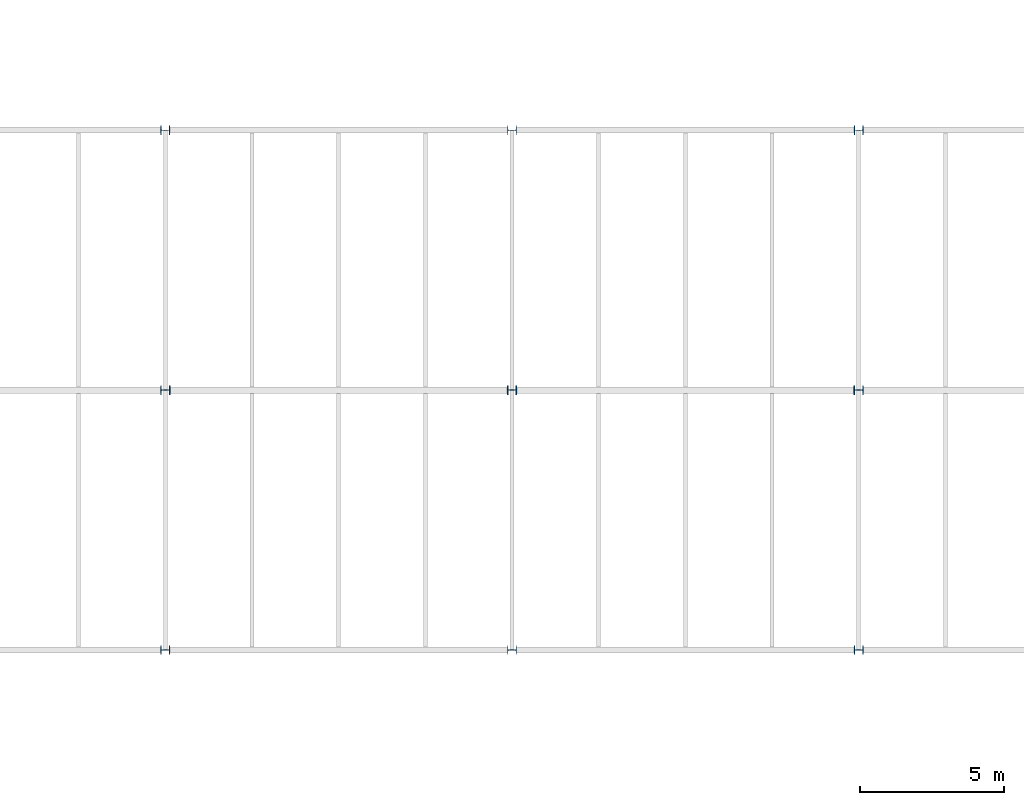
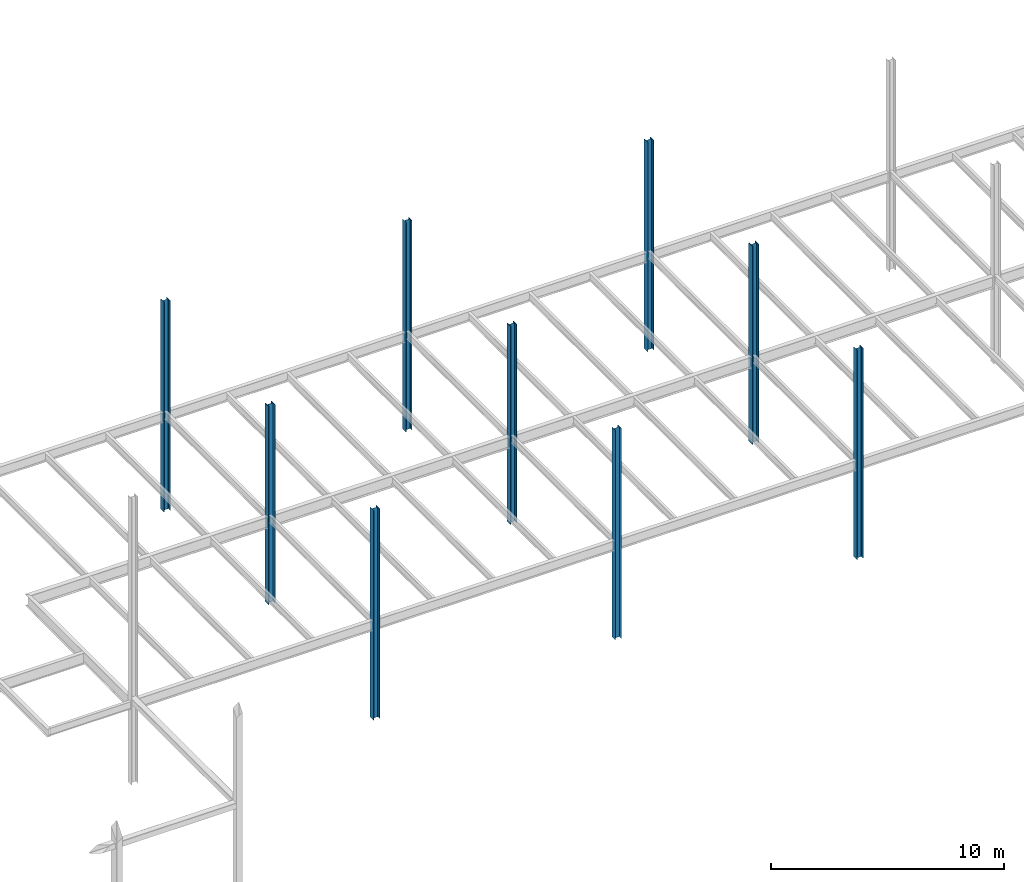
# One storey, part 7 of 19: 9 columns.
"""IFC2X3 building model written with IfcOpenShell, lengths in millimetres."""

from ifc_helpers import new_model, si_unit, origin, place, context, project, spatial, faceted_brep, material, element, save


model = new_model("IFC2X3")

# Units and contexts
context_of_model = context(None, 3, precision=1e-05, world=origin())
ifc_project = project(units=[si_unit("LENGTHUNIT", "METRE", prefix="MILLI")], contexts=[context_of_model])

# Building, storey
building = spatial("IfcBuilding", under=ifc_project, Name="Building", CompositionType="ELEMENT")
storey = spatial("IfcBuildingStorey", under=building, Name="FL2-FRM", CompositionType="ELEMENT")

# Columns
ifc_material_1 = material(Name="A992")
column_1_placement = place(None, origin())
element("IfcColumn", 1, at=column_1_placement, inside=storey, material=ifc_material_1, Name="Column638", context=context_of_model, shape_type="Brep", body=[
    faceted_brep([(24154.0, 26847.5, -812.8), (24154.0, 27152.5, -812.8), (24154.0, 27152.5, 10194.2), (24154.0, 26847.5, 10194.2), (24138.6, 27152.5, -812.8), (24138.6, 27152.5, 10194.2), (24138.6, 27020.1, -812.8), (24138.6, 27020.1, 10194.2), (24138.1, 27016.2, -812.8), (24138.1, 27016.2, 10194.2), (24136.6, 27012.5, -812.8), (24136.6, 27012.5, 10194.2), (24134.1, 27009.4, -812.8), (24134.1, 27009.4, 10194.2), (24131.0, 27007.0, -812.8), (24131.0, 27007.0, 10194.2), (24127.3, 27005.5, -812.8), (24127.3, 27005.5, 10194.2), (24123.4, 27004.9, -812.8), (24123.4, 27004.9, 10194.2), (23876.6, 27004.9, -812.8), (23876.6, 27004.9, 10194.2), (23872.7, 27005.5, -812.8), (23872.7, 27005.5, 10194.2), (23869.0, 27007.0, -812.8), (23869.0, 27007.0, 10194.2), (23865.9, 27009.4, -812.8), (23865.9, 27009.4, 10194.2), (23863.4, 27012.5, -812.8), (23863.4, 27012.5, 10194.2), (23861.9, 27016.2, -812.8), (23861.9, 27016.2, 10194.2), (23861.4, 27020.1, -812.8), (23861.4, 27020.1, 10194.2), (23861.4, 27152.5, -812.8), (23861.4, 27152.5, 10194.2), (23846.0, 27152.5, -812.8), (23846.0, 27152.5, 10194.2), (23846.0, 26847.5, -812.8), (23846.0, 26847.5, 10194.2), (23861.4, 26847.5, -812.8), (23861.4, 26847.5, 10194.2), (23861.4, 26979.9, -812.8), (23861.4, 26979.9, 10194.2), (23861.9, 26983.8, -812.8), (23861.9, 26983.8, 10194.2), (23863.4, 26987.5, -812.8), (23863.4, 26987.5, 10194.2), (23865.9, 26990.6, -812.8), (23865.9, 26990.6, 10194.2), (23869.0, 26993.0, -812.8), (23869.0, 26993.0, 10194.2), (23872.7, 26994.5, -812.8), (23872.7, 26994.5, 10194.2), (23876.6, 26995.1, -812.8), (23876.6, 26995.1, 10194.2), (24123.4, 26995.1, -812.8), (24123.4, 26995.1, 10194.2), (24127.3, 26994.5, -812.8), (24127.3, 26994.5, 10194.2), (24131.0, 26993.0, -812.8), (24131.0, 26993.0, 10194.2), (24134.1, 26990.6, -812.8), (24134.1, 26990.6, 10194.2), (24136.6, 26987.5, -812.8), (24136.6, 26987.5, 10194.2), (24138.1, 26983.8, -812.8), (24138.1, 26983.8, 10194.2), (24138.6, 26979.9, -812.8), (24138.6, 26979.9, 10194.2), (24138.6, 26847.5, -812.8), (24138.6, 26847.5, 10194.2)], [[[0, 1, 2, 3]], [[1, 4, 5, 2]], [[4, 6, 7, 5]], [[6, 8, 9, 7]], [[8, 10, 11, 9]], [[10, 12, 13, 11]], [[12, 14, 15, 13]], [[14, 16, 17, 15]], [[16, 18, 19, 17]], [[18, 20, 21, 19]], [[20, 22, 23, 21]], [[22, 24, 25, 23]], [[24, 26, 27, 25]], [[26, 28, 29, 27]], [[28, 30, 31, 29]], [[30, 32, 33, 31]], [[32, 34, 35, 33]], [[34, 36, 37, 35]], [[36, 38, 39, 37]], [[38, 40, 41, 39]], [[40, 42, 43, 41]], [[42, 44, 45, 43]], [[44, 46, 47, 45]], [[46, 48, 49, 47]], [[48, 50, 51, 49]], [[50, 52, 53, 51]], [[52, 54, 55, 53]], [[54, 56, 57, 55]], [[56, 58, 59, 57]], [[58, 60, 61, 59]], [[60, 62, 63, 61]], [[62, 64, 65, 63]], [[64, 66, 67, 65]], [[66, 68, 69, 67]], [[68, 70, 71, 69]], [[70, 0, 3, 71]], [[0, 70, 68, 66, 64, 62, 60, 58, 56, 54, 52, 50, 48, 46, 44, 42, 40, 38, 36, 34, 32, 30, 28, 26, 24, 22, 20, 18, 16, 14, 12, 10, 8, 6, 4, 1]], [[3, 2, 5, 7, 9, 11, 13, 15, 17, 19, 21, 23, 25, 27, 29, 31, 33, 35, 37, 39, 41, 43, 45, 47, 49, 51, 53, 55, 57, 59, 61, 63, 65, 67, 69, 71]]]),
])
ifc_material_2 = material(Name="A992")
column_2_placement = place(None, origin())
element("IfcColumn", 2, at=column_2_placement, inside=storey, material=ifc_material_2, Name="Column639", context=context_of_model, shape_type="Brep", body=[
    faceted_brep([(36166.5, 17843.5, -203.2), (36166.5, 18156.5, -203.2), (36166.5, 18156.5, 10194.2), (36166.5, 17843.5, 10194.2), (36138.4, 18156.5, -203.2), (36138.4, 18156.5, 10194.2), (36138.4, 18024.2, -203.2), (36138.4, 18024.2, 10194.2), (36137.9, 18020.3, -203.2), (36137.9, 18020.3, 10194.2), (36136.4, 18016.6, -203.2), (36136.4, 18016.6, 10194.2), (36133.9, 18013.5, -203.2), (36133.9, 18013.5, 10194.2), (36130.8, 18011.0, -203.2), (36130.8, 18011.0, 10194.2), (36127.1, 18009.5, -203.2), (36127.1, 18009.5, 10194.2), (36123.2, 18009.0, -203.2), (36123.2, 18009.0, 10194.2), (35876.8, 18009.0, -203.2), (35876.8, 18009.0, 10194.2), (35872.9, 18009.5, -203.2), (35872.9, 18009.5, 10194.2), (35869.2, 18011.0, -203.2), (35869.2, 18011.0, 10194.2), (35866.1, 18013.5, -203.2), (35866.1, 18013.5, 10194.2), (35863.6, 18016.6, -203.2), (35863.6, 18016.6, 10194.2), (35862.1, 18020.3, -203.2), (35862.1, 18020.3, 10194.2), (35861.6, 18024.2, -203.2), (35861.6, 18024.2, 10194.2), (35861.6, 18156.5, -203.2), (35861.6, 18156.5, 10194.2), (35833.5, 18156.5, -203.2), (35833.5, 18156.5, 10194.2), (35833.5, 17843.5, -203.2), (35833.5, 17843.5, 10194.2), (35861.6, 17843.5, -203.2), (35861.6, 17843.5, 10194.2), (35861.6, 17975.8, -203.2), (35861.6, 17975.8, 10194.2), (35862.1, 17979.7, -203.2), (35862.1, 17979.7, 10194.2), (35863.6, 17983.4, -203.2), (35863.6, 17983.4, 10194.2), (35866.1, 17986.5, -203.2), (35866.1, 17986.5, 10194.2), (35869.2, 17989.0, -203.2), (35869.2, 17989.0, 10194.2), (35872.9, 17990.5, -203.2), (35872.9, 17990.5, 10194.2), (35876.8, 17991.0, -203.2), (35876.8, 17991.0, 10194.2), (36123.2, 17991.0, -203.2), (36123.2, 17991.0, 10194.2), (36127.1, 17990.5, -203.2), (36127.1, 17990.5, 10194.2), (36130.8, 17989.0, -203.2), (36130.8, 17989.0, 10194.2), (36133.9, 17986.5, -203.2), (36133.9, 17986.5, 10194.2), (36136.4, 17983.4, -203.2), (36136.4, 17983.4, 10194.2), (36137.9, 17979.7, -203.2), (36137.9, 17979.7, 10194.2), (36138.4, 17975.8, -203.2), (36138.4, 17975.8, 10194.2), (36138.4, 17843.5, -203.2), (36138.4, 17843.5, 10194.2)], [[[0, 1, 2, 3]], [[1, 4, 5, 2]], [[4, 6, 7, 5]], [[6, 8, 9, 7]], [[8, 10, 11, 9]], [[10, 12, 13, 11]], [[12, 14, 15, 13]], [[14, 16, 17, 15]], [[16, 18, 19, 17]], [[18, 20, 21, 19]], [[20, 22, 23, 21]], [[22, 24, 25, 23]], [[24, 26, 27, 25]], [[26, 28, 29, 27]], [[28, 30, 31, 29]], [[30, 32, 33, 31]], [[32, 34, 35, 33]], [[34, 36, 37, 35]], [[36, 38, 39, 37]], [[38, 40, 41, 39]], [[40, 42, 43, 41]], [[42, 44, 45, 43]], [[44, 46, 47, 45]], [[46, 48, 49, 47]], [[48, 50, 51, 49]], [[50, 52, 53, 51]], [[52, 54, 55, 53]], [[54, 56, 57, 55]], [[56, 58, 59, 57]], [[58, 60, 61, 59]], [[60, 62, 63, 61]], [[62, 64, 65, 63]], [[64, 66, 67, 65]], [[66, 68, 69, 67]], [[68, 70, 71, 69]], [[70, 0, 3, 71]], [[0, 70, 68, 66, 64, 62, 60, 58, 56, 54, 52, 50, 48, 46, 44, 42, 40, 38, 36, 34, 32, 30, 28, 26, 24, 22, 20, 18, 16, 14, 12, 10, 8, 6, 4, 1]], [[3, 2, 5, 7, 9, 11, 13, 15, 17, 19, 21, 23, 25, 27, 29, 31, 33, 35, 37, 39, 41, 43, 45, 47, 49, 51, 53, 55, 57, 59, 61, 63, 65, 67, 69, 71]]]),
])
ifc_material_3 = material(Name="A992")
column_3_placement = place(None, origin())
element("IfcColumn", 3, at=column_3_placement, inside=storey, material=ifc_material_3, Name="Column640", context=context_of_model, shape_type="Brep", body=[
    faceted_brep([(24166.5, 17843.5, -203.2), (24166.5, 18156.5, -203.2), (24166.5, 18156.5, 10194.2), (24166.5, 17843.5, 10194.2), (24138.4, 18156.5, -203.2), (24138.4, 18156.5, 10194.2), (24138.4, 18024.2, -203.2), (24138.4, 18024.2, 10194.2), (24137.9, 18020.3, -203.2), (24137.9, 18020.3, 10194.2), (24136.4, 18016.6, -203.2), (24136.4, 18016.6, 10194.2), (24133.9, 18013.5, -203.2), (24133.9, 18013.5, 10194.2), (24130.8, 18011.0, -203.2), (24130.8, 18011.0, 10194.2), (24127.1, 18009.5, -203.2), (24127.1, 18009.5, 10194.2), (24123.2, 18009.0, -203.2), (24123.2, 18009.0, 10194.2), (23876.8, 18009.0, -203.2), (23876.8, 18009.0, 10194.2), (23872.9, 18009.5, -203.2), (23872.9, 18009.5, 10194.2), (23869.2, 18011.0, -203.2), (23869.2, 18011.0, 10194.2), (23866.1, 18013.5, -203.2), (23866.1, 18013.5, 10194.2), (23863.6, 18016.6, -203.2), (23863.6, 18016.6, 10194.2), (23862.1, 18020.3, -203.2), (23862.1, 18020.3, 10194.2), (23861.6, 18024.2, -203.2), (23861.6, 18024.2, 10194.2), (23861.6, 18156.5, -203.2), (23861.6, 18156.5, 10194.2), (23833.5, 18156.5, -203.2), (23833.5, 18156.5, 10194.2), (23833.5, 17843.5, -203.2), (23833.5, 17843.5, 10194.2), (23861.6, 17843.5, -203.2), (23861.6, 17843.5, 10194.2), (23861.6, 17975.8, -203.2), (23861.6, 17975.8, 10194.2), (23862.1, 17979.7, -203.2), (23862.1, 17979.7, 10194.2), (23863.6, 17983.4, -203.2), (23863.6, 17983.4, 10194.2), (23866.1, 17986.5, -203.2), (23866.1, 17986.5, 10194.2), (23869.2, 17989.0, -203.2), (23869.2, 17989.0, 10194.2), (23872.9, 17990.5, -203.2), (23872.9, 17990.5, 10194.2), (23876.8, 17991.0, -203.2), (23876.8, 17991.0, 10194.2), (24123.2, 17991.0, -203.2), (24123.2, 17991.0, 10194.2), (24127.1, 17990.5, -203.2), (24127.1, 17990.5, 10194.2), (24130.8, 17989.0, -203.2), (24130.8, 17989.0, 10194.2), (24133.9, 17986.5, -203.2), (24133.9, 17986.5, 10194.2), (24136.4, 17983.4, -203.2), (24136.4, 17983.4, 10194.2), (24137.9, 17979.7, -203.2), (24137.9, 17979.7, 10194.2), (24138.4, 17975.8, -203.2), (24138.4, 17975.8, 10194.2), (24138.4, 17843.5, -203.2), (24138.4, 17843.5, 10194.2)], [[[0, 1, 2, 3]], [[1, 4, 5, 2]], [[4, 6, 7, 5]], [[6, 8, 9, 7]], [[8, 10, 11, 9]], [[10, 12, 13, 11]], [[12, 14, 15, 13]], [[14, 16, 17, 15]], [[16, 18, 19, 17]], [[18, 20, 21, 19]], [[20, 22, 23, 21]], [[22, 24, 25, 23]], [[24, 26, 27, 25]], [[26, 28, 29, 27]], [[28, 30, 31, 29]], [[30, 32, 33, 31]], [[32, 34, 35, 33]], [[34, 36, 37, 35]], [[36, 38, 39, 37]], [[38, 40, 41, 39]], [[40, 42, 43, 41]], [[42, 44, 45, 43]], [[44, 46, 47, 45]], [[46, 48, 49, 47]], [[48, 50, 51, 49]], [[50, 52, 53, 51]], [[52, 54, 55, 53]], [[54, 56, 57, 55]], [[56, 58, 59, 57]], [[58, 60, 61, 59]], [[60, 62, 63, 61]], [[62, 64, 65, 63]], [[64, 66, 67, 65]], [[66, 68, 69, 67]], [[68, 70, 71, 69]], [[70, 0, 3, 71]], [[0, 70, 68, 66, 64, 62, 60, 58, 56, 54, 52, 50, 48, 46, 44, 42, 40, 38, 36, 34, 32, 30, 28, 26, 24, 22, 20, 18, 16, 14, 12, 10, 8, 6, 4, 1]], [[3, 2, 5, 7, 9, 11, 13, 15, 17, 19, 21, 23, 25, 27, 29, 31, 33, 35, 37, 39, 41, 43, 45, 47, 49, 51, 53, 55, 57, 59, 61, 63, 65, 67, 69, 71]]]),
])
ifc_material_4 = material(Name="A992")
column_4_placement = place(None, origin())
element("IfcColumn", 4, at=column_4_placement, inside=storey, material=ifc_material_4, Name="Column641", context=context_of_model, shape_type="Brep", body=[
    faceted_brep([(48166.5, 17843.5, -203.2), (48166.5, 18156.5, -203.2), (48166.5, 18156.5, 10194.2), (48166.5, 17843.5, 10194.2), (48138.4, 18156.5, -203.2), (48138.4, 18156.5, 10194.2), (48138.4, 18024.2, -203.2), (48138.4, 18024.2, 10194.2), (48137.9, 18020.3, -203.2), (48137.9, 18020.3, 10194.2), (48136.4, 18016.6, -203.2), (48136.4, 18016.6, 10194.2), (48133.9, 18013.5, -203.2), (48133.9, 18013.5, 10194.2), (48130.8, 18011.0, -203.2), (48130.8, 18011.0, 10194.2), (48127.1, 18009.5, -203.2), (48127.1, 18009.5, 10194.2), (48123.2, 18009.0, -203.2), (48123.2, 18009.0, 10194.2), (47876.8, 18009.0, -203.2), (47876.8, 18009.0, 10194.2), (47872.9, 18009.5, -203.2), (47872.9, 18009.5, 10194.2), (47869.2, 18011.0, -203.2), (47869.2, 18011.0, 10194.2), (47866.1, 18013.5, -203.2), (47866.1, 18013.5, 10194.2), (47863.6, 18016.6, -203.2), (47863.6, 18016.6, 10194.2), (47862.1, 18020.3, -203.2), (47862.1, 18020.3, 10194.2), (47861.6, 18024.2, -203.2), (47861.6, 18024.2, 10194.2), (47861.6, 18156.5, -203.2), (47861.6, 18156.5, 10194.2), (47833.5, 18156.5, -203.2), (47833.5, 18156.5, 10194.2), (47833.5, 17843.5, -203.2), (47833.5, 17843.5, 10194.2), (47861.6, 17843.5, -203.2), (47861.6, 17843.5, 10194.2), (47861.6, 17975.8, -203.2), (47861.6, 17975.8, 10194.2), (47862.1, 17979.7, -203.2), (47862.1, 17979.7, 10194.2), (47863.6, 17983.4, -203.2), (47863.6, 17983.4, 10194.2), (47866.1, 17986.5, -203.2), (47866.1, 17986.5, 10194.2), (47869.2, 17989.0, -203.2), (47869.2, 17989.0, 10194.2), (47872.9, 17990.5, -203.2), (47872.9, 17990.5, 10194.2), (47876.8, 17991.0, -203.2), (47876.8, 17991.0, 10194.2), (48123.2, 17991.0, -203.2), (48123.2, 17991.0, 10194.2), (48127.1, 17990.5, -203.2), (48127.1, 17990.5, 10194.2), (48130.8, 17989.0, -203.2), (48130.8, 17989.0, 10194.2), (48133.9, 17986.5, -203.2), (48133.9, 17986.5, 10194.2), (48136.4, 17983.4, -203.2), (48136.4, 17983.4, 10194.2), (48137.9, 17979.7, -203.2), (48137.9, 17979.7, 10194.2), (48138.4, 17975.8, -203.2), (48138.4, 17975.8, 10194.2), (48138.4, 17843.5, -203.2), (48138.4, 17843.5, 10194.2)], [[[0, 1, 2, 3]], [[1, 4, 5, 2]], [[4, 6, 7, 5]], [[6, 8, 9, 7]], [[8, 10, 11, 9]], [[10, 12, 13, 11]], [[12, 14, 15, 13]], [[14, 16, 17, 15]], [[16, 18, 19, 17]], [[18, 20, 21, 19]], [[20, 22, 23, 21]], [[22, 24, 25, 23]], [[24, 26, 27, 25]], [[26, 28, 29, 27]], [[28, 30, 31, 29]], [[30, 32, 33, 31]], [[32, 34, 35, 33]], [[34, 36, 37, 35]], [[36, 38, 39, 37]], [[38, 40, 41, 39]], [[40, 42, 43, 41]], [[42, 44, 45, 43]], [[44, 46, 47, 45]], [[46, 48, 49, 47]], [[48, 50, 51, 49]], [[50, 52, 53, 51]], [[52, 54, 55, 53]], [[54, 56, 57, 55]], [[56, 58, 59, 57]], [[58, 60, 61, 59]], [[60, 62, 63, 61]], [[62, 64, 65, 63]], [[64, 66, 67, 65]], [[66, 68, 69, 67]], [[68, 70, 71, 69]], [[70, 0, 3, 71]], [[0, 70, 68, 66, 64, 62, 60, 58, 56, 54, 52, 50, 48, 46, 44, 42, 40, 38, 36, 34, 32, 30, 28, 26, 24, 22, 20, 18, 16, 14, 12, 10, 8, 6, 4, 1]], [[3, 2, 5, 7, 9, 11, 13, 15, 17, 19, 21, 23, 25, 27, 29, 31, 33, 35, 37, 39, 41, 43, 45, 47, 49, 51, 53, 55, 57, 59, 61, 63, 65, 67, 69, 71]]]),
])
ifc_material_5 = material(Name="A992")
column_5_placement = place(None, origin())
element("IfcColumn", 5, at=column_5_placement, inside=storey, material=ifc_material_5, Name="Column645", context=context_of_model, shape_type="Brep", body=[
    faceted_brep([(48154.0, 26847.5, -812.8), (48154.0, 27152.5, -812.8), (48154.0, 27152.5, 10194.2), (48154.0, 26847.5, 10194.2), (48138.6, 27152.5, -812.8), (48138.6, 27152.5, 10194.2), (48138.6, 27020.1, -812.8), (48138.6, 27020.1, 10194.2), (48138.1, 27016.2, -812.8), (48138.1, 27016.2, 10194.2), (48136.6, 27012.5, -812.8), (48136.6, 27012.5, 10194.2), (48134.1, 27009.4, -812.8), (48134.1, 27009.4, 10194.2), (48131.0, 27007.0, -812.8), (48131.0, 27007.0, 10194.2), (48127.3, 27005.5, -812.8), (48127.3, 27005.5, 10194.2), (48123.4, 27004.9, -812.8), (48123.4, 27004.9, 10194.2), (47876.6, 27004.9, -812.8), (47876.6, 27004.9, 10194.2), (47872.7, 27005.5, -812.8), (47872.7, 27005.5, 10194.2), (47869.0, 27007.0, -812.8), (47869.0, 27007.0, 10194.2), (47865.9, 27009.4, -812.8), (47865.9, 27009.4, 10194.2), (47863.4, 27012.5, -812.8), (47863.4, 27012.5, 10194.2), (47861.9, 27016.2, -812.8), (47861.9, 27016.2, 10194.2), (47861.4, 27020.1, -812.8), (47861.4, 27020.1, 10194.2), (47861.4, 27152.5, -812.8), (47861.4, 27152.5, 10194.2), (47846.0, 27152.5, -812.8), (47846.0, 27152.5, 10194.2), (47846.0, 26847.5, -812.8), (47846.0, 26847.5, 10194.2), (47861.4, 26847.5, -812.8), (47861.4, 26847.5, 10194.2), (47861.4, 26979.9, -812.8), (47861.4, 26979.9, 10194.2), (47861.9, 26983.8, -812.8), (47861.9, 26983.8, 10194.2), (47863.4, 26987.5, -812.8), (47863.4, 26987.5, 10194.2), (47865.9, 26990.6, -812.8), (47865.9, 26990.6, 10194.2), (47869.0, 26993.0, -812.8), (47869.0, 26993.0, 10194.2), (47872.7, 26994.5, -812.8), (47872.7, 26994.5, 10194.2), (47876.6, 26995.1, -812.8), (47876.6, 26995.1, 10194.2), (48123.4, 26995.1, -812.8), (48123.4, 26995.1, 10194.2), (48127.3, 26994.5, -812.8), (48127.3, 26994.5, 10194.2), (48131.0, 26993.0, -812.8), (48131.0, 26993.0, 10194.2), (48134.1, 26990.6, -812.8), (48134.1, 26990.6, 10194.2), (48136.6, 26987.5, -812.8), (48136.6, 26987.5, 10194.2), (48138.1, 26983.8, -812.8), (48138.1, 26983.8, 10194.2), (48138.6, 26979.9, -812.8), (48138.6, 26979.9, 10194.2), (48138.6, 26847.5, -812.8), (48138.6, 26847.5, 10194.2)], [[[0, 1, 2, 3]], [[1, 4, 5, 2]], [[4, 6, 7, 5]], [[6, 8, 9, 7]], [[8, 10, 11, 9]], [[10, 12, 13, 11]], [[12, 14, 15, 13]], [[14, 16, 17, 15]], [[16, 18, 19, 17]], [[18, 20, 21, 19]], [[20, 22, 23, 21]], [[22, 24, 25, 23]], [[24, 26, 27, 25]], [[26, 28, 29, 27]], [[28, 30, 31, 29]], [[30, 32, 33, 31]], [[32, 34, 35, 33]], [[34, 36, 37, 35]], [[36, 38, 39, 37]], [[38, 40, 41, 39]], [[40, 42, 43, 41]], [[42, 44, 45, 43]], [[44, 46, 47, 45]], [[46, 48, 49, 47]], [[48, 50, 51, 49]], [[50, 52, 53, 51]], [[52, 54, 55, 53]], [[54, 56, 57, 55]], [[56, 58, 59, 57]], [[58, 60, 61, 59]], [[60, 62, 63, 61]], [[62, 64, 65, 63]], [[64, 66, 67, 65]], [[66, 68, 69, 67]], [[68, 70, 71, 69]], [[70, 0, 3, 71]], [[0, 70, 68, 66, 64, 62, 60, 58, 56, 54, 52, 50, 48, 46, 44, 42, 40, 38, 36, 34, 32, 30, 28, 26, 24, 22, 20, 18, 16, 14, 12, 10, 8, 6, 4, 1]], [[3, 2, 5, 7, 9, 11, 13, 15, 17, 19, 21, 23, 25, 27, 29, 31, 33, 35, 37, 39, 41, 43, 45, 47, 49, 51, 53, 55, 57, 59, 61, 63, 65, 67, 69, 71]]]),
])
ifc_material_6 = material(Name="A992")
column_6_placement = place(None, origin())
element("IfcColumn", 6, at=column_6_placement, inside=storey, material=ifc_material_6, Name="Column646", context=context_of_model, shape_type="Brep", body=[
    faceted_brep([(36154.0, 26847.5, -812.8), (36154.0, 27152.5, -812.8), (36154.0, 27152.5, 10194.2), (36154.0, 26847.5, 10194.2), (36138.6, 27152.5, -812.8), (36138.6, 27152.5, 10194.2), (36138.6, 27020.1, -812.8), (36138.6, 27020.1, 10194.2), (36138.1, 27016.2, -812.8), (36138.1, 27016.2, 10194.2), (36136.6, 27012.5, -812.8), (36136.6, 27012.5, 10194.2), (36134.1, 27009.4, -812.8), (36134.1, 27009.4, 10194.2), (36131.0, 27007.0, -812.8), (36131.0, 27007.0, 10194.2), (36127.3, 27005.5, -812.8), (36127.3, 27005.5, 10194.2), (36123.4, 27004.9, -812.8), (36123.4, 27004.9, 10194.2), (35876.6, 27004.9, -812.8), (35876.6, 27004.9, 10194.2), (35872.7, 27005.5, -812.8), (35872.7, 27005.5, 10194.2), (35869.0, 27007.0, -812.8), (35869.0, 27007.0, 10194.2), (35865.9, 27009.4, -812.8), (35865.9, 27009.4, 10194.2), (35863.4, 27012.5, -812.8), (35863.4, 27012.5, 10194.2), (35861.9, 27016.2, -812.8), (35861.9, 27016.2, 10194.2), (35861.4, 27020.1, -812.8), (35861.4, 27020.1, 10194.2), (35861.4, 27152.5, -812.8), (35861.4, 27152.5, 10194.2), (35846.0, 27152.5, -812.8), (35846.0, 27152.5, 10194.2), (35846.0, 26847.5, -812.8), (35846.0, 26847.5, 10194.2), (35861.4, 26847.5, -812.8), (35861.4, 26847.5, 10194.2), (35861.4, 26979.9, -812.8), (35861.4, 26979.9, 10194.2), (35861.9, 26983.8, -812.8), (35861.9, 26983.8, 10194.2), (35863.4, 26987.5, -812.8), (35863.4, 26987.5, 10194.2), (35865.9, 26990.6, -812.8), (35865.9, 26990.6, 10194.2), (35869.0, 26993.0, -812.8), (35869.0, 26993.0, 10194.2), (35872.7, 26994.5, -812.8), (35872.7, 26994.5, 10194.2), (35876.6, 26995.1, -812.8), (35876.6, 26995.1, 10194.2), (36123.4, 26995.1, -812.8), (36123.4, 26995.1, 10194.2), (36127.3, 26994.5, -812.8), (36127.3, 26994.5, 10194.2), (36131.0, 26993.0, -812.8), (36131.0, 26993.0, 10194.2), (36134.1, 26990.6, -812.8), (36134.1, 26990.6, 10194.2), (36136.6, 26987.5, -812.8), (36136.6, 26987.5, 10194.2), (36138.1, 26983.8, -812.8), (36138.1, 26983.8, 10194.2), (36138.6, 26979.9, -812.8), (36138.6, 26979.9, 10194.2), (36138.6, 26847.5, -812.8), (36138.6, 26847.5, 10194.2)], [[[0, 1, 2, 3]], [[1, 4, 5, 2]], [[4, 6, 7, 5]], [[6, 8, 9, 7]], [[8, 10, 11, 9]], [[10, 12, 13, 11]], [[12, 14, 15, 13]], [[14, 16, 17, 15]], [[16, 18, 19, 17]], [[18, 20, 21, 19]], [[20, 22, 23, 21]], [[22, 24, 25, 23]], [[24, 26, 27, 25]], [[26, 28, 29, 27]], [[28, 30, 31, 29]], [[30, 32, 33, 31]], [[32, 34, 35, 33]], [[34, 36, 37, 35]], [[36, 38, 39, 37]], [[38, 40, 41, 39]], [[40, 42, 43, 41]], [[42, 44, 45, 43]], [[44, 46, 47, 45]], [[46, 48, 49, 47]], [[48, 50, 51, 49]], [[50, 52, 53, 51]], [[52, 54, 55, 53]], [[54, 56, 57, 55]], [[56, 58, 59, 57]], [[58, 60, 61, 59]], [[60, 62, 63, 61]], [[62, 64, 65, 63]], [[64, 66, 67, 65]], [[66, 68, 69, 67]], [[68, 70, 71, 69]], [[70, 0, 3, 71]], [[0, 70, 68, 66, 64, 62, 60, 58, 56, 54, 52, 50, 48, 46, 44, 42, 40, 38, 36, 34, 32, 30, 28, 26, 24, 22, 20, 18, 16, 14, 12, 10, 8, 6, 4, 1]], [[3, 2, 5, 7, 9, 11, 13, 15, 17, 19, 21, 23, 25, 27, 29, 31, 33, 35, 37, 39, 41, 43, 45, 47, 49, 51, 53, 55, 57, 59, 61, 63, 65, 67, 69, 71]]]),
])
ifc_material_7 = material(Name="A992")
column_7_placement = place(None, origin())
element("IfcColumn", 7, at=column_7_placement, inside=storey, material=ifc_material_7, Name="Column649", context=context_of_model, shape_type="Brep", body=[
    faceted_brep([(48154.0, 8847.5, -812.8), (48154.0, 9152.5, -812.8), (48154.0, 9152.5, 10194.2), (48154.0, 8847.5, 10194.2), (48138.6, 9152.5, -812.8), (48138.6, 9152.5, 10194.2), (48138.6, 9020.15, -812.8), (48138.6, 9020.15, 10194.2), (48138.1, 9016.22, -812.8), (48138.1, 9016.22, 10194.2), (48136.6, 9012.55, -812.8), (48136.6, 9012.55, 10194.2), (48134.1, 9009.4, -812.8), (48134.1, 9009.4, 10194.2), (48131.0, 9006.99, -812.8), (48131.0, 9006.99, 10194.2), (48127.3, 9005.47, -812.8), (48127.3, 9005.47, 10194.2), (48123.4, 9004.95, -812.8), (48123.4, 9004.95, 10194.2), (47876.6, 9004.95, -812.8), (47876.6, 9004.95, 10194.2), (47872.7, 9005.47, -812.8), (47872.7, 9005.47, 10194.2), (47869.0, 9006.99, -812.8), (47869.0, 9006.99, 10194.2), (47865.9, 9009.4, -812.8), (47865.9, 9009.4, 10194.2), (47863.4, 9012.55, -812.8), (47863.4, 9012.55, 10194.2), (47861.9, 9016.22, -812.8), (47861.9, 9016.22, 10194.2), (47861.4, 9020.15, -812.8), (47861.4, 9020.15, 10194.2), (47861.4, 9152.5, -812.8), (47861.4, 9152.5, 10194.2), (47846.0, 9152.5, -812.8), (47846.0, 9152.5, 10194.2), (47846.0, 8847.5, -812.8), (47846.0, 8847.5, 10194.2), (47861.4, 8847.5, -812.8), (47861.4, 8847.5, 10194.2), (47861.4, 8979.85, -812.8), (47861.4, 8979.85, 10194.2), (47861.9, 8983.78, -812.8), (47861.9, 8983.78, 10194.2), (47863.4, 8987.45, -812.8), (47863.4, 8987.45, 10194.2), (47865.9, 8990.6, -812.8), (47865.9, 8990.6, 10194.2), (47869.0, 8993.01, -812.8), (47869.0, 8993.01, 10194.2), (47872.7, 8994.53, -812.8), (47872.7, 8994.53, 10194.2), (47876.6, 8995.05, -812.8), (47876.6, 8995.05, 10194.2), (48123.4, 8995.05, -812.8), (48123.4, 8995.05, 10194.2), (48127.3, 8994.53, -812.8), (48127.3, 8994.53, 10194.2), (48131.0, 8993.01, -812.8), (48131.0, 8993.01, 10194.2), (48134.1, 8990.6, -812.8), (48134.1, 8990.6, 10194.2), (48136.6, 8987.45, -812.8), (48136.6, 8987.45, 10194.2), (48138.1, 8983.78, -812.8), (48138.1, 8983.78, 10194.2), (48138.6, 8979.85, -812.8), (48138.6, 8979.85, 10194.2), (48138.6, 8847.5, -812.8), (48138.6, 8847.5, 10194.2)], [[[0, 1, 2, 3]], [[1, 4, 5, 2]], [[4, 6, 7, 5]], [[6, 8, 9, 7]], [[8, 10, 11, 9]], [[10, 12, 13, 11]], [[12, 14, 15, 13]], [[14, 16, 17, 15]], [[16, 18, 19, 17]], [[18, 20, 21, 19]], [[20, 22, 23, 21]], [[22, 24, 25, 23]], [[24, 26, 27, 25]], [[26, 28, 29, 27]], [[28, 30, 31, 29]], [[30, 32, 33, 31]], [[32, 34, 35, 33]], [[34, 36, 37, 35]], [[36, 38, 39, 37]], [[38, 40, 41, 39]], [[40, 42, 43, 41]], [[42, 44, 45, 43]], [[44, 46, 47, 45]], [[46, 48, 49, 47]], [[48, 50, 51, 49]], [[50, 52, 53, 51]], [[52, 54, 55, 53]], [[54, 56, 57, 55]], [[56, 58, 59, 57]], [[58, 60, 61, 59]], [[60, 62, 63, 61]], [[62, 64, 65, 63]], [[64, 66, 67, 65]], [[66, 68, 69, 67]], [[68, 70, 71, 69]], [[70, 0, 3, 71]], [[0, 70, 68, 66, 64, 62, 60, 58, 56, 54, 52, 50, 48, 46, 44, 42, 40, 38, 36, 34, 32, 30, 28, 26, 24, 22, 20, 18, 16, 14, 12, 10, 8, 6, 4, 1]], [[3, 2, 5, 7, 9, 11, 13, 15, 17, 19, 21, 23, 25, 27, 29, 31, 33, 35, 37, 39, 41, 43, 45, 47, 49, 51, 53, 55, 57, 59, 61, 63, 65, 67, 69, 71]]]),
])
ifc_material_8 = material(Name="A992")
column_8_placement = place(None, origin())
element("IfcColumn", 8, at=column_8_placement, inside=storey, material=ifc_material_8, Name="Column650", context=context_of_model, shape_type="Brep", body=[
    faceted_brep([(36154.0, 8847.5, -812.8), (36154.0, 9152.5, -812.8), (36154.0, 9152.5, 10194.2), (36154.0, 8847.5, 10194.2), (36138.6, 9152.5, -812.8), (36138.6, 9152.5, 10194.2), (36138.6, 9020.15, -812.8), (36138.6, 9020.15, 10194.2), (36138.1, 9016.22, -812.8), (36138.1, 9016.22, 10194.2), (36136.6, 9012.55, -812.8), (36136.6, 9012.55, 10194.2), (36134.1, 9009.4, -812.8), (36134.1, 9009.4, 10194.2), (36131.0, 9006.99, -812.8), (36131.0, 9006.99, 10194.2), (36127.3, 9005.47, -812.8), (36127.3, 9005.47, 10194.2), (36123.4, 9004.95, -812.8), (36123.4, 9004.95, 10194.2), (35876.6, 9004.95, -812.8), (35876.6, 9004.95, 10194.2), (35872.7, 9005.47, -812.8), (35872.7, 9005.47, 10194.2), (35869.0, 9006.99, -812.8), (35869.0, 9006.99, 10194.2), (35865.9, 9009.4, -812.8), (35865.9, 9009.4, 10194.2), (35863.4, 9012.55, -812.8), (35863.4, 9012.55, 10194.2), (35861.9, 9016.22, -812.8), (35861.9, 9016.22, 10194.2), (35861.4, 9020.15, -812.8), (35861.4, 9020.15, 10194.2), (35861.4, 9152.5, -812.8), (35861.4, 9152.5, 10194.2), (35846.0, 9152.5, -812.8), (35846.0, 9152.5, 10194.2), (35846.0, 8847.5, -812.8), (35846.0, 8847.5, 10194.2), (35861.4, 8847.5, -812.8), (35861.4, 8847.5, 10194.2), (35861.4, 8979.85, -812.8), (35861.4, 8979.85, 10194.2), (35861.9, 8983.78, -812.8), (35861.9, 8983.78, 10194.2), (35863.4, 8987.45, -812.8), (35863.4, 8987.45, 10194.2), (35865.9, 8990.6, -812.8), (35865.9, 8990.6, 10194.2), (35869.0, 8993.01, -812.8), (35869.0, 8993.01, 10194.2), (35872.7, 8994.53, -812.8), (35872.7, 8994.53, 10194.2), (35876.6, 8995.05, -812.8), (35876.6, 8995.05, 10194.2), (36123.4, 8995.05, -812.8), (36123.4, 8995.05, 10194.2), (36127.3, 8994.53, -812.8), (36127.3, 8994.53, 10194.2), (36131.0, 8993.01, -812.8), (36131.0, 8993.01, 10194.2), (36134.1, 8990.6, -812.8), (36134.1, 8990.6, 10194.2), (36136.6, 8987.45, -812.8), (36136.6, 8987.45, 10194.2), (36138.1, 8983.78, -812.8), (36138.1, 8983.78, 10194.2), (36138.6, 8979.85, -812.8), (36138.6, 8979.85, 10194.2), (36138.6, 8847.5, -812.8), (36138.6, 8847.5, 10194.2)], [[[0, 1, 2, 3]], [[1, 4, 5, 2]], [[4, 6, 7, 5]], [[6, 8, 9, 7]], [[8, 10, 11, 9]], [[10, 12, 13, 11]], [[12, 14, 15, 13]], [[14, 16, 17, 15]], [[16, 18, 19, 17]], [[18, 20, 21, 19]], [[20, 22, 23, 21]], [[22, 24, 25, 23]], [[24, 26, 27, 25]], [[26, 28, 29, 27]], [[28, 30, 31, 29]], [[30, 32, 33, 31]], [[32, 34, 35, 33]], [[34, 36, 37, 35]], [[36, 38, 39, 37]], [[38, 40, 41, 39]], [[40, 42, 43, 41]], [[42, 44, 45, 43]], [[44, 46, 47, 45]], [[46, 48, 49, 47]], [[48, 50, 51, 49]], [[50, 52, 53, 51]], [[52, 54, 55, 53]], [[54, 56, 57, 55]], [[56, 58, 59, 57]], [[58, 60, 61, 59]], [[60, 62, 63, 61]], [[62, 64, 65, 63]], [[64, 66, 67, 65]], [[66, 68, 69, 67]], [[68, 70, 71, 69]], [[70, 0, 3, 71]], [[0, 70, 68, 66, 64, 62, 60, 58, 56, 54, 52, 50, 48, 46, 44, 42, 40, 38, 36, 34, 32, 30, 28, 26, 24, 22, 20, 18, 16, 14, 12, 10, 8, 6, 4, 1]], [[3, 2, 5, 7, 9, 11, 13, 15, 17, 19, 21, 23, 25, 27, 29, 31, 33, 35, 37, 39, 41, 43, 45, 47, 49, 51, 53, 55, 57, 59, 61, 63, 65, 67, 69, 71]]]),
])
ifc_material_9 = material(Name="A992")
column_9_placement = place(None, origin())
element("IfcColumn", 9, at=column_9_placement, inside=storey, material=ifc_material_9, Name="Column651", context=context_of_model, shape_type="Brep", body=[
    faceted_brep([(24154.0, 8847.5, -812.8), (24154.0, 9152.5, -812.8), (24154.0, 9152.5, 10194.2), (24154.0, 8847.5, 10194.2), (24138.6, 9152.5, -812.8), (24138.6, 9152.5, 10194.2), (24138.6, 9020.15, -812.8), (24138.6, 9020.15, 10194.2), (24138.1, 9016.22, -812.8), (24138.1, 9016.22, 10194.2), (24136.6, 9012.55, -812.8), (24136.6, 9012.55, 10194.2), (24134.1, 9009.4, -812.8), (24134.1, 9009.4, 10194.2), (24131.0, 9006.99, -812.8), (24131.0, 9006.99, 10194.2), (24127.3, 9005.47, -812.8), (24127.3, 9005.47, 10194.2), (24123.4, 9004.95, -812.8), (24123.4, 9004.95, 10194.2), (23876.6, 9004.95, -812.8), (23876.6, 9004.95, 10194.2), (23872.7, 9005.47, -812.8), (23872.7, 9005.47, 10194.2), (23869.0, 9006.99, -812.8), (23869.0, 9006.99, 10194.2), (23865.9, 9009.4, -812.8), (23865.9, 9009.4, 10194.2), (23863.4, 9012.55, -812.8), (23863.4, 9012.55, 10194.2), (23861.9, 9016.22, -812.8), (23861.9, 9016.22, 10194.2), (23861.4, 9020.15, -812.8), (23861.4, 9020.15, 10194.2), (23861.4, 9152.5, -812.8), (23861.4, 9152.5, 10194.2), (23846.0, 9152.5, -812.8), (23846.0, 9152.5, 10194.2), (23846.0, 8847.5, -812.8), (23846.0, 8847.5, 10194.2), (23861.4, 8847.5, -812.8), (23861.4, 8847.5, 10194.2), (23861.4, 8979.85, -812.8), (23861.4, 8979.85, 10194.2), (23861.9, 8983.78, -812.8), (23861.9, 8983.78, 10194.2), (23863.4, 8987.45, -812.8), (23863.4, 8987.45, 10194.2), (23865.9, 8990.6, -812.8), (23865.9, 8990.6, 10194.2), (23869.0, 8993.01, -812.8), (23869.0, 8993.01, 10194.2), (23872.7, 8994.53, -812.8), (23872.7, 8994.53, 10194.2), (23876.6, 8995.05, -812.8), (23876.6, 8995.05, 10194.2), (24123.4, 8995.05, -812.8), (24123.4, 8995.05, 10194.2), (24127.3, 8994.53, -812.8), (24127.3, 8994.53, 10194.2), (24131.0, 8993.01, -812.8), (24131.0, 8993.01, 10194.2), (24134.1, 8990.6, -812.8), (24134.1, 8990.6, 10194.2), (24136.6, 8987.45, -812.8), (24136.6, 8987.45, 10194.2), (24138.1, 8983.78, -812.8), (24138.1, 8983.78, 10194.2), (24138.6, 8979.85, -812.8), (24138.6, 8979.85, 10194.2), (24138.6, 8847.5, -812.8), (24138.6, 8847.5, 10194.2)], [[[0, 1, 2, 3]], [[1, 4, 5, 2]], [[4, 6, 7, 5]], [[6, 8, 9, 7]], [[8, 10, 11, 9]], [[10, 12, 13, 11]], [[12, 14, 15, 13]], [[14, 16, 17, 15]], [[16, 18, 19, 17]], [[18, 20, 21, 19]], [[20, 22, 23, 21]], [[22, 24, 25, 23]], [[24, 26, 27, 25]], [[26, 28, 29, 27]], [[28, 30, 31, 29]], [[30, 32, 33, 31]], [[32, 34, 35, 33]], [[34, 36, 37, 35]], [[36, 38, 39, 37]], [[38, 40, 41, 39]], [[40, 42, 43, 41]], [[42, 44, 45, 43]], [[44, 46, 47, 45]], [[46, 48, 49, 47]], [[48, 50, 51, 49]], [[50, 52, 53, 51]], [[52, 54, 55, 53]], [[54, 56, 57, 55]], [[56, 58, 59, 57]], [[58, 60, 61, 59]], [[60, 62, 63, 61]], [[62, 64, 65, 63]], [[64, 66, 67, 65]], [[66, 68, 69, 67]], [[68, 70, 71, 69]], [[70, 0, 3, 71]], [[0, 70, 68, 66, 64, 62, 60, 58, 56, 54, 52, 50, 48, 46, 44, 42, 40, 38, 36, 34, 32, 30, 28, 26, 24, 22, 20, 18, 16, 14, 12, 10, 8, 6, 4, 1]], [[3, 2, 5, 7, 9, 11, 13, 15, 17, 19, 21, 23, 25, 27, 29, 31, 33, 35, 37, 39, 41, 43, 45, 47, 49, 51, 53, 55, 57, 59, 61, 63, 65, 67, 69, 71]]]),
])

save(model, "model.ifc")
